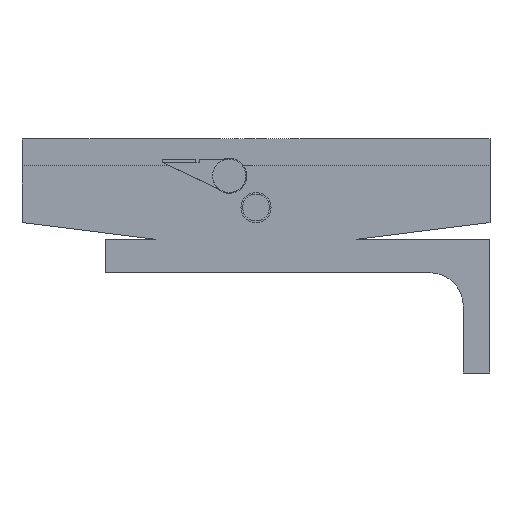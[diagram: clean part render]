
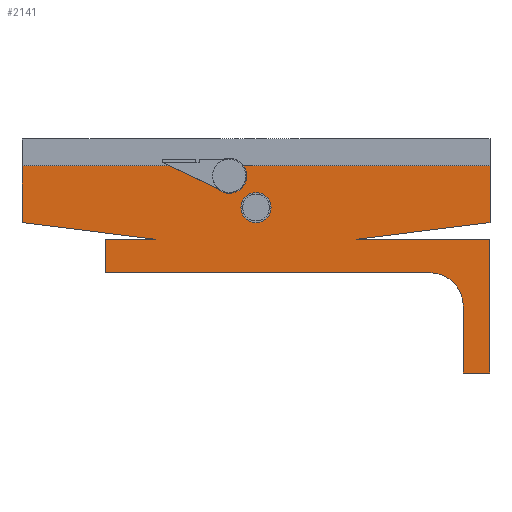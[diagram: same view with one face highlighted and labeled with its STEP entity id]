
A CAD part, left-side view. The second image highlights one B-rep face of the part: STEP entity #2141.
In plain terms, the highlighted planar face has unit normal (-1, 0, 0).
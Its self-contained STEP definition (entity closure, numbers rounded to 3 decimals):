
#2042 = EDGE_CURVE ( 'NONE', #2043, #2044, #2802, .T. ) ;
#2043 = VERTEX_POINT ( 'NONE', #2806 ) ;
#2044 = VERTEX_POINT ( 'NONE', #2805 ) ;
#2086 = VERTEX_POINT ( 'NONE', #2996 ) ;
#2088 = EDGE_CURVE ( 'NONE', #2086, #2089, #2995, .T. ) ;
#2089 = VERTEX_POINT ( 'NONE', #2928 ) ;
#2137 = VERTEX_POINT ( 'NONE', #2969 ) ;
#2139 = EDGE_CURVE ( 'NONE', #2345, #2137, #2967, .T. ) ;
#2141 = ADVANCED_FACE ( 'NONE', ( #2963, #2962, #2961 ), #2968, .T. ) ;
#2142 = EDGE_LOOP ( 'NONE', ( #2346, #2347, #2348, #2351, #2354, #2183, #2185, #2188, #2205, #2207, #2208, #2209, #2210 ) ) ;
#2144 = EDGE_CURVE ( 'NONE', #2338, #2345, #2956, .T. ) ;
#2183 = ORIENTED_EDGE ( 'NONE', *, *, #2184, .T. ) ;
#2184 = EDGE_CURVE ( 'NONE', #2356, #2357, #3013, .T. ) ;
#2185 = ORIENTED_EDGE ( 'NONE', *, *, #2186, .T. ) ;
#2186 = EDGE_CURVE ( 'NONE', #2357, #2187, #3000, .T. ) ;
#2187 = VERTEX_POINT ( 'NONE', #3036 ) ;
#2188 = ORIENTED_EDGE ( 'NONE', *, *, #2203, .F. ) ;
#2191 = EDGE_CURVE ( 'NONE', #2192, #2324, #3043, .T. ) ;
#2192 = VERTEX_POINT ( 'NONE', #3039 ) ;
#2203 = EDGE_CURVE ( 'NONE', #2204, #2187, #3068, .T. ) ;
#2204 = VERTEX_POINT ( 'NONE', #3064 ) ;
#2205 = ORIENTED_EDGE ( 'NONE', *, *, #2206, .T. ) ;
#2206 = EDGE_CURVE ( 'NONE', #2204, #2192, #3063, .T. ) ;
#2207 = ORIENTED_EDGE ( 'NONE', *, *, #2191, .T. ) ;
#2208 = ORIENTED_EDGE ( 'NONE', *, *, #2323, .T. ) ;
#2209 = ORIENTED_EDGE ( 'NONE', *, *, #2310, .T. ) ;
#2210 = ORIENTED_EDGE ( 'NONE', *, *, #2340, .T. ) ;
#2211 = EDGE_LOOP ( 'NONE', ( #2341, #2343 ) ) ;
#2238 = ORIENTED_EDGE ( 'NONE', *, *, #2239, .F. ) ;
#2239 = EDGE_CURVE ( 'NONE', #2089, #2086, #3081, .T. ) ;
#2240 = ORIENTED_EDGE ( 'NONE', *, *, #2088, .F. ) ;
#2310 = EDGE_CURVE ( 'NONE', #2311, #2382, #2858, .T. ) ;
#2311 = VERTEX_POINT ( 'NONE', #3254 ) ;
#2323 = EDGE_CURVE ( 'NONE', #2324, #2311, #2824, .T. ) ;
#2324 = VERTEX_POINT ( 'NONE', #3264 ) ;
#2338 = VERTEX_POINT ( 'NONE', #3322 ) ;
#2340 = EDGE_CURVE ( 'NONE', #2382, #2338, #3321, .T. ) ;
#2341 = ORIENTED_EDGE ( 'NONE', *, *, #2342, .T. ) ;
#2342 = EDGE_CURVE ( 'NONE', #2044, #2043, #3314, .T. ) ;
#2343 = ORIENTED_EDGE ( 'NONE', *, *, #2042, .T. ) ;
#2344 = EDGE_LOOP ( 'NONE', ( #2238, #2240 ) ) ;
#2345 = VERTEX_POINT ( 'NONE', #3260 ) ;
#2346 = ORIENTED_EDGE ( 'NONE', *, *, #2144, .T. ) ;
#2347 = ORIENTED_EDGE ( 'NONE', *, *, #2139, .T. ) ;
#2348 = ORIENTED_EDGE ( 'NONE', *, *, #2349, .T. ) ;
#2349 = EDGE_CURVE ( 'NONE', #2137, #2350, #3259, .T. ) ;
#2350 = VERTEX_POINT ( 'NONE', #3255 ) ;
#2351 = ORIENTED_EDGE ( 'NONE', *, *, #2352, .F. ) ;
#2352 = EDGE_CURVE ( 'NONE', #2353, #2350, #3273, .T. ) ;
#2353 = VERTEX_POINT ( 'NONE', #3269 ) ;
#2354 = ORIENTED_EDGE ( 'NONE', *, *, #2355, .F. ) ;
#2355 = EDGE_CURVE ( 'NONE', #2356, #2353, #3268, .T. ) ;
#2356 = VERTEX_POINT ( 'NONE', #3309 ) ;
#2357 = VERTEX_POINT ( 'NONE', #3308 ) ;
#2382 = VERTEX_POINT ( 'NONE', #3367 ) ;
#2784 = AXIS2_PLACEMENT_3D ( 'NONE', #2793, #2799, #2798 ) ;
#2793 = CARTESIAN_POINT ( 'NONE',  ( -20., 78., 39. ) ) ;
#2798 = DIRECTION ( 'NONE',  ( 0., 1., 0. ) ) ;
#2799 = DIRECTION ( 'NONE',  ( 1., 0., 0. ) ) ;
#2802 = CIRCLE ( 'NONE', #2784, 2. ) ;
#2805 = CARTESIAN_POINT ( 'NONE',  ( -20., 76.068, 38.482 ) ) ;
#2806 = CARTESIAN_POINT ( 'NONE',  ( -20., 79.932, 39.518 ) ) ;
#2824 = LINE ( 'NONE', #2831, #2829 ) ;
#2825 = DIRECTION ( 'NONE',  ( 1., 0., 0. ) ) ;
#2826 = DIRECTION ( 'NONE',  ( 0., 0., 1. ) ) ;
#2828 = DIRECTION ( 'NONE',  ( 0., -1., 0. ) ) ;
#2829 = VECTOR ( 'NONE', #2828, 1000. ) ;
#2831 = CARTESIAN_POINT ( 'NONE',  ( -20., 115., 10. ) ) ;
#2857 = CARTESIAN_POINT ( 'NONE',  ( -20., 18., 0. ) ) ;
#2858 = CIRCLE ( 'NONE', #2859, 10. ) ;
#2859 = AXIS2_PLACEMENT_3D ( 'NONE', #2857, #2825, #2826 ) ;
#2928 = CARTESIAN_POINT ( 'NONE',  ( -20., 74.5, 29.5 ) ) ;
#2929 = DIRECTION ( 'NONE',  ( 0., 1., 0. ) ) ;
#2930 = DIRECTION ( 'NONE',  ( -1., 0., 0. ) ) ;
#2931 = CARTESIAN_POINT ( 'NONE',  ( -20., 70., 29.5 ) ) ;
#2932 = AXIS2_PLACEMENT_3D ( 'NONE', #2931, #2930, #2929 ) ;
#2953 = DIRECTION ( 'NONE',  ( 0., -1., 0. ) ) ;
#2954 = VECTOR ( 'NONE', #2953, 1000. ) ;
#2955 = CARTESIAN_POINT ( 'NONE',  ( -20., 8., -20. ) ) ;
#2956 = LINE ( 'NONE', #2955, #2954 ) ;
#2957 = DIRECTION ( 'NONE',  ( 0., 0., 1. ) ) ;
#2958 = DIRECTION ( 'NONE',  ( -1., 0., 0. ) ) ;
#2959 = CARTESIAN_POINT ( 'NONE',  ( -20., 18., 0. ) ) ;
#2960 = AXIS2_PLACEMENT_3D ( 'NONE', #2959, #2958, #2957 ) ;
#2961 = FACE_BOUND ( 'NONE', #2344, .T. ) ;
#2962 = FACE_BOUND ( 'NONE', #2211, .T. ) ;
#2963 = FACE_OUTER_BOUND ( 'NONE', #2142, .T. ) ;
#2964 = DIRECTION ( 'NONE',  ( 0., 0., 1. ) ) ;
#2965 = VECTOR ( 'NONE', #2964, 1000. ) ;
#2966 = CARTESIAN_POINT ( 'NONE',  ( -20., 0., -20. ) ) ;
#2967 = LINE ( 'NONE', #2966, #2965 ) ;
#2968 = PLANE ( 'NONE',  #2960 ) ;
#2969 = CARTESIAN_POINT ( 'NONE',  ( -20., 0., 20. ) ) ;
#2995 = CIRCLE ( 'NONE', #2932, 4.5 ) ;
#2996 = CARTESIAN_POINT ( 'NONE',  ( -20., 65.5, 29.5 ) ) ;
#2998 = VECTOR ( 'NONE', #3037, 1000. ) ;
#2999 = CARTESIAN_POINT ( 'NONE',  ( -20., 140., 20. ) ) ;
#3000 = LINE ( 'NONE', #2999, #2998 ) ;
#3010 = DIRECTION ( 'NONE',  ( 0., 1., 0. ) ) ;
#3011 = VECTOR ( 'NONE', #3010, 1000. ) ;
#3012 = CARTESIAN_POINT ( 'NONE',  ( -20., 0., 42. ) ) ;
#3013 = LINE ( 'NONE', #3012, #3011 ) ;
#3036 = CARTESIAN_POINT ( 'NONE',  ( -20., 140., 25. ) ) ;
#3037 = DIRECTION ( 'NONE',  ( 0., 0., -1. ) ) ;
#3039 = CARTESIAN_POINT ( 'NONE',  ( -20., 115., 20. ) ) ;
#3040 = DIRECTION ( 'NONE',  ( 0., 0., -1. ) ) ;
#3041 = VECTOR ( 'NONE', #3040, 1000. ) ;
#3042 = CARTESIAN_POINT ( 'NONE',  ( -20., 115., 20. ) ) ;
#3043 = LINE ( 'NONE', #3042, #3041 ) ;
#3048 = DIRECTION ( 'NONE',  ( 0., 0.992, 0.124 ) ) ;
#3049 = VECTOR ( 'NONE', #3048, 1000. ) ;
#3050 = CARTESIAN_POINT ( 'NONE',  ( -20., 100., 20. ) ) ;
#3060 = DIRECTION ( 'NONE',  ( 0., 1., 0. ) ) ;
#3061 = VECTOR ( 'NONE', #3060, 1000. ) ;
#3062 = CARTESIAN_POINT ( 'NONE',  ( -20., 0., 20. ) ) ;
#3063 = LINE ( 'NONE', #3062, #3061 ) ;
#3064 = CARTESIAN_POINT ( 'NONE',  ( -20., 100., 20. ) ) ;
#3068 = LINE ( 'NONE', #3050, #3049 ) ;
#3077 = DIRECTION ( 'NONE',  ( 0., 1., 0. ) ) ;
#3078 = DIRECTION ( 'NONE',  ( -1., 0., 0. ) ) ;
#3079 = CARTESIAN_POINT ( 'NONE',  ( -20., 70., 29.5 ) ) ;
#3080 = AXIS2_PLACEMENT_3D ( 'NONE', #3079, #3078, #3077 ) ;
#3081 = CIRCLE ( 'NONE', #3080, 4.5 ) ;
#3254 = CARTESIAN_POINT ( 'NONE',  ( -20., 18., 10. ) ) ;
#3255 = CARTESIAN_POINT ( 'NONE',  ( -20., 40., 20. ) ) ;
#3256 = DIRECTION ( 'NONE',  ( 0., 1., 0. ) ) ;
#3257 = VECTOR ( 'NONE', #3256, 1000. ) ;
#3258 = CARTESIAN_POINT ( 'NONE',  ( -20., 0., 20. ) ) ;
#3259 = LINE ( 'NONE', #3258, #3257 ) ;
#3260 = CARTESIAN_POINT ( 'NONE',  ( -20., 0., -20. ) ) ;
#3261 = DIRECTION ( 'NONE',  ( 0., 1., 0. ) ) ;
#3262 = DIRECTION ( 'NONE',  ( 1., 0., 0. ) ) ;
#3264 = CARTESIAN_POINT ( 'NONE',  ( -20., 115., 10. ) ) ;
#3267 = CARTESIAN_POINT ( 'NONE',  ( -20., 0., 20. ) ) ;
#3268 = LINE ( 'NONE', #3267, #3311 ) ;
#3269 = CARTESIAN_POINT ( 'NONE',  ( -20., 0., 25. ) ) ;
#3270 = DIRECTION ( 'NONE',  ( 0., 0.992, -0.124 ) ) ;
#3271 = VECTOR ( 'NONE', #3270, 1000. ) ;
#3272 = CARTESIAN_POINT ( 'NONE',  ( -20., 0., 25. ) ) ;
#3273 = LINE ( 'NONE', #3272, #3271 ) ;
#3308 = CARTESIAN_POINT ( 'NONE',  ( -20., 140., 42. ) ) ;
#3309 = CARTESIAN_POINT ( 'NONE',  ( -20., 0., 42. ) ) ;
#3310 = DIRECTION ( 'NONE',  ( 0., 0., -1. ) ) ;
#3311 = VECTOR ( 'NONE', #3310, 1000. ) ;
#3312 = CARTESIAN_POINT ( 'NONE',  ( -20., 78., 39. ) ) ;
#3313 = AXIS2_PLACEMENT_3D ( 'NONE', #3312, #3262, #3261 ) ;
#3314 = CIRCLE ( 'NONE', #3313, 2. ) ;
#3315 = DIRECTION ( 'NONE',  ( 0., 0., -1. ) ) ;
#3316 = VECTOR ( 'NONE', #3315, 1000. ) ;
#3317 = CARTESIAN_POINT ( 'NONE',  ( -20., 8., 0. ) ) ;
#3321 = LINE ( 'NONE', #3317, #3316 ) ;
#3322 = CARTESIAN_POINT ( 'NONE',  ( -20., 8., -20. ) ) ;
#3367 = CARTESIAN_POINT ( 'NONE',  ( -20., 8., 0. ) ) ;
